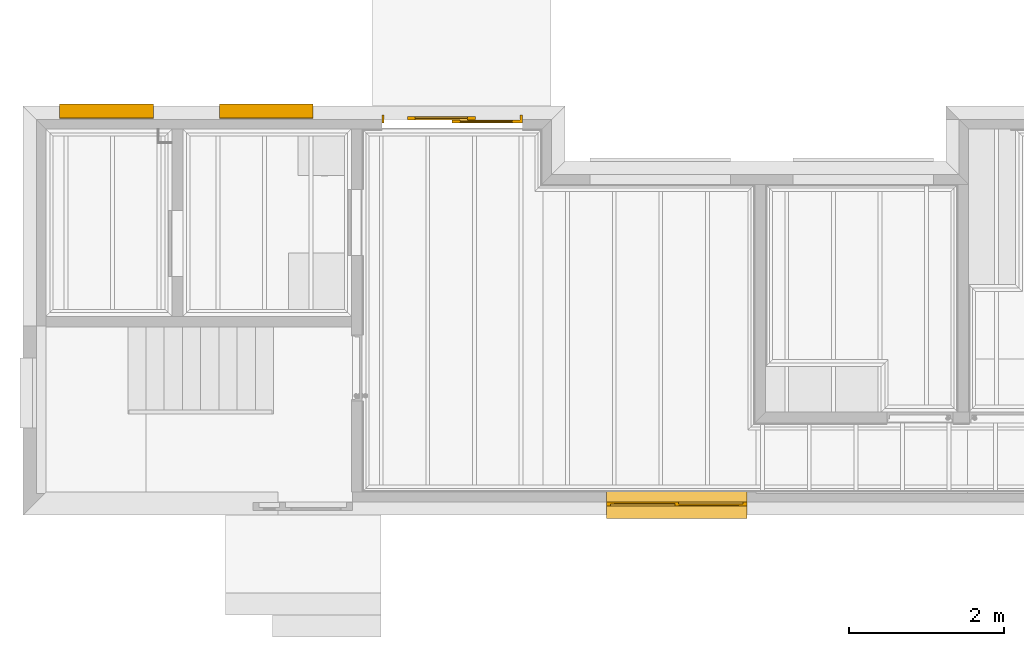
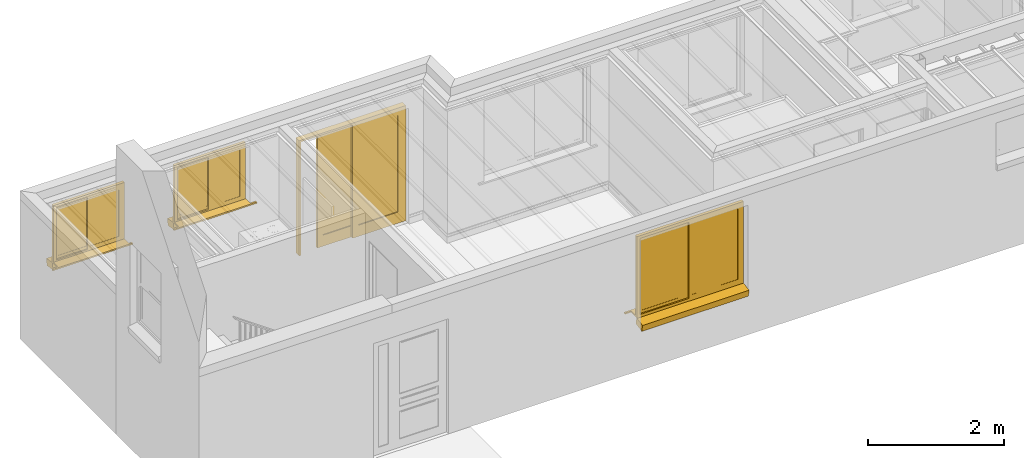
# One storey, part 7 of 15: 3 windows, 1 door.
"""IFC2X3 building model written with IfcOpenShell, lengths in millimetres."""

from ifc_helpers import new_model, entity, si_unit, converted_unit, money_unit, direction, frame, origin_with_axes, place, context, subcontext, project, spatial, faceted_brep, source, transform, mapped, material, material_list, type_object, element, save


model = new_model("IFC2X3")

# Units and contexts
model_context = context("Model", 3, precision=1e-05, world=origin_with_axes(), true_north=direction((0.0, 1.0)))
body_context = subcontext(model_context, "Body", "Model", "MODEL_VIEW")
ifc_project = project(units=[si_unit("LENGTHUNIT", "METRE", prefix="MILLI"), si_unit("AREAUNIT", "SQUARE_METRE"), si_unit("VOLUMEUNIT", "CUBIC_METRE"), converted_unit("PLANEANGLEUNIT", "DEGREE", entity("IfcPlaneAngleMeasure", 0.0174532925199), si_unit("PLANEANGLEUNIT", "RADIAN"), dimensions=[0, 0, 0, 0, 0, 0, 0]), si_unit("SOLIDANGLEUNIT", "STERADIAN"), money_unit("AUD"), si_unit("TIMEUNIT", "SECOND"), si_unit("MASSUNIT", "GRAM"), si_unit("THERMODYNAMICTEMPERATUREUNIT", "DEGREE_CELSIUS"), si_unit("LUMINOUSINTENSITYUNIT", "LUMEN")], contexts=[model_context])

# Site, building, storey
site_placement = place(None, origin_with_axes())
site = spatial("IfcSite", under=ifc_project, at=site_placement, Name="Lot 1. East Hills", CompositionType="ELEMENT")
building_placement = place(site_placement, origin_with_axes())
building = spatial("IfcBuilding", under=site, at=building_placement, Name="Proposed Units 7 & 8", CompositionType="ELEMENT")
storey_placement = place(building_placement, frame((0.0, 0.0, 3202.0), z_axis=(0.0, 0.0, 1.0), x_axis=(1.0, 0.0, 0.0)))
storey = spatial("IfcBuildingStorey", under=building, at=storey_placement, Name="Ground", CompositionType="ELEMENT", Elevation=3202.0)

# Windows
ifc_material_1 = material(Name="Empty Fill")
ifc_material_2 = material(Name="air space")
ifc_material_list_1 = material_list([ifc_material_1, ifc_material_2, ifc_material_1, ifc_material_1, ifc_material_1, ifc_material_1, ifc_material_1, ifc_material_1, ifc_material_1, ifc_material_1])
window_style = type_object("IfcWindowStyle", Name="W2 Horizontal Slide 11", ConstructionType="NOTDEFINED", OperationType="DOUBLE_PANEL_VERTICAL", ParameterTakesPrecedence=False, Sizeable=False)
shared_shape_1 = source(origin_with_axes(), body_context, "Body", "Brep", [
    faceted_brep([(-605.0, -16.6666666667, 0.0), (605.0, -16.6666666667, 0.0), (605.0, 160.83778132, -31.2988233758), (-605.0, 160.83778132, -31.2988233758), (-605.0, -37.5044479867, -118.176930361), (605.0, -37.5044479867, -118.176930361), (605.0, 140.0, -149.475753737), (-605.0, 140.0, -149.475753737)], [[[0, 1, 2, 3]], [[4, 5, 1, 0]], [[1, 5, 6, 2]], [[3, 2, 6, 7]], [[0, 3, 7, 4]], [[7, 6, 5, 4]]]),
    faceted_brep([(605.0, -50.0, 0.0), (605.0, -50.0, 25.0), (605.0, -174.999998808, 25.0), (605.0, -174.999998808, 0.0), (-605.0, -50.0, 0.0), (-605.0, -50.0, 25.0), (-605.0, -174.999998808, 25.0), (-705.0, -174.999998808, 25.0), (-705.0, -204.999998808, 25.0), (705.0, -204.999998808, 25.0), (705.0, -174.999998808, 25.0), (705.0, -174.999998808, 0.0), (705.0, -204.999998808, 0.0), (-705.0, -204.999998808, 0.0), (-705.0, -174.999998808, 0.0), (-605.0, -174.999998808, 0.0)], [[[0, 1, 2, 3]], [[4, 5, 1, 0]], [[1, 5, 6, 7, 8, 9, 10, 2]], [[3, 2, 10, 11]], [[0, 3, 11, 12, 13, 14, 15, 4]], [[15, 6, 5, 4]], [[14, 7, 6, 15]], [[13, 8, 7, 14]], [[12, 9, 8, 13]], [[11, 10, 9, 12]]]),
    faceted_brep([(-555.0, 0.0, 50.0), (-555.0, 0.0, 988.0), (-555.0, -50.0, 988.0), (-555.0, -50.0, 50.0), (-605.0, 0.0, 50.0), (-605.0, 0.0, 988.0), (-605.0, -50.0, 988.0), (-605.0, -50.0, 50.0)], [[[0, 1, 2, 3]], [[0, 4, 5, 1]], [[1, 5, 6, 2]], [[3, 2, 6, 7]], [[4, 0, 3, 7]], [[5, 4, 7, 6]]]),
    faceted_brep([(605.0, 0.0, 50.0), (605.0, 0.0, 988.0), (605.0, -50.0, 988.0), (605.0, -50.0, 50.0), (555.0, 0.0, 50.0), (555.0, 0.0, 988.0), (555.0, -50.0, 988.0), (555.0, -50.0, 50.0)], [[[0, 1, 2, 3]], [[0, 4, 5, 1]], [[1, 5, 6, 2]], [[3, 2, 6, 7]], [[4, 0, 3, 7]], [[5, 4, 7, 6]]]),
    faceted_brep([(-605.0, 0.0, 0.0), (605.0, 0.0, 0.0), (605.0, -50.0, 0.0), (-605.0, -50.0, 0.0), (-605.0, 0.0, 50.0), (-555.0, 0.0, 50.0), (555.0, 0.0, 50.0), (605.0, 0.0, 50.0), (605.0, -50.0, 50.0), (555.0, -50.0, 50.0), (-555.0, -50.0, 50.0), (-605.0, -50.0, 50.0)], [[[0, 1, 2, 3]], [[0, 4, 5, 6, 7, 1]], [[1, 7, 8, 2]], [[3, 2, 8, 9, 10, 11]], [[4, 0, 3, 11]], [[5, 4, 11, 10]], [[6, 5, 10, 9]], [[7, 6, 9, 8]]]),
    faceted_brep([(-605.0, 0.0, 988.0), (-555.0, 0.0, 988.0), (-555.0, -50.0, 988.0), (-605.0, -50.0, 988.0), (-605.0, 0.0, 1038.0), (605.0, 0.0, 1038.0), (605.0, 0.0, 988.0), (555.0, 0.0, 988.0), (555.0, -50.0, 988.0), (605.0, -50.0, 988.0), (605.0, -50.0, 1038.0), (-605.0, -50.0, 1038.0)], [[[0, 1, 2, 3]], [[0, 4, 5, 6, 7, 1]], [[1, 7, 8, 2]], [[3, 2, 8, 9, 10, 11]], [[4, 0, 3, 11]], [[5, 4, 11, 10]], [[6, 5, 10, 9]], [[7, 6, 9, 8]]]),
    faceted_brep([(-505.0, 0.0, 100.0), (-505.0, 0.0, 938.0), (-505.0, -25.0, 938.0), (-505.0, -25.0, 100.0), (-555.0, 0.0, 100.0), (-555.0, 0.0, 938.0), (-555.0, -25.0, 938.0), (-555.0, -25.0, 100.0)], [[[0, 1, 2, 3]], [[0, 4, 5, 1]], [[1, 5, 6, 2]], [[3, 2, 6, 7]], [[4, 0, 3, 7]], [[5, 4, 7, 6]]]),
    faceted_brep([(25.0, 0.0, 100.0), (25.0, 0.0, 938.0), (25.0, -25.0, 938.0), (25.0, -25.0, 100.0), (-25.0, 0.0, 100.0), (-25.0, 0.0, 938.0), (-25.0, -25.0, 938.0), (-25.0, -25.0, 100.0)], [[[0, 1, 2, 3]], [[0, 4, 5, 1]], [[1, 5, 6, 2]], [[3, 2, 6, 7]], [[4, 0, 3, 7]], [[5, 4, 7, 6]]]),
    faceted_brep([(25.0, 0.0, 50.0), (25.0, 0.0, 100.0), (25.0, -25.0, 100.0), (25.0, -25.0, 50.0), (-555.0, 0.0, 50.0), (-555.0, 0.0, 100.0), (-505.0, 0.0, 100.0), (-25.0, 0.0, 100.0), (-25.0, -25.0, 100.0), (-505.0, -25.0, 100.0), (-555.0, -25.0, 100.0), (-555.0, -25.0, 50.0)], [[[0, 1, 2, 3]], [[0, 4, 5, 6, 7, 1]], [[1, 7, 8, 2]], [[3, 2, 8, 9, 10, 11]], [[4, 0, 3, 11]], [[5, 4, 11, 10]], [[6, 5, 10, 9]], [[7, 6, 9, 8]]]),
    faceted_brep([(-555.0, 0.0, 988.0), (-555.0, 0.0, 938.0), (-555.0, -25.0, 938.0), (-555.0, -25.0, 988.0), (25.0, 0.0, 988.0), (25.0, 0.0, 938.0), (-25.0, 0.0, 938.0), (-505.0, 0.0, 938.0), (-505.0, -25.0, 938.0), (-25.0, -25.0, 938.0), (25.0, -25.0, 938.0), (25.0, -25.0, 988.0)], [[[0, 1, 2, 3]], [[0, 4, 5, 6, 7, 1]], [[1, 7, 8, 2]], [[3, 2, 8, 9, 10, 11]], [[4, 0, 3, 11]], [[5, 4, 11, 10]], [[6, 5, 10, 9]], [[7, 6, 9, 8]]]),
    faceted_brep([(-505.0, -2.5, 100.0), (-25.0, -2.5, 100.0), (-25.0, -22.5, 100.0), (-505.0, -22.5, 100.0), (-505.0, -2.5, 938.0), (-25.0, -2.5, 938.0), (-25.0, -22.5, 938.0), (-505.0, -22.5, 938.0)], [[[0, 1, 2, 3]], [[0, 4, 5, 1]], [[1, 5, 6, 2]], [[3, 2, 6, 7]], [[4, 0, 3, 7]], [[5, 4, 7, 6]]]),
    faceted_brep([(25.0, -25.0, 100.0), (25.0, -25.0, 938.0), (25.0, -50.0, 938.0), (25.0, -50.0, 100.0), (-25.0, -25.0, 100.0), (-25.0, -25.0, 938.0), (-25.0, -50.0, 938.0), (-25.0, -50.0, 100.0)], [[[0, 1, 2, 3]], [[0, 4, 5, 1]], [[1, 5, 6, 2]], [[3, 2, 6, 7]], [[4, 0, 3, 7]], [[5, 4, 7, 6]]]),
    faceted_brep([(555.0, -25.0, 100.0), (555.0, -25.0, 938.0), (555.0, -50.0, 938.0), (555.0, -50.0, 100.0), (505.0, -25.0, 100.0), (505.0, -25.0, 938.0), (505.0, -50.0, 938.0), (505.0, -50.0, 100.0)], [[[0, 1, 2, 3]], [[0, 4, 5, 1]], [[1, 5, 6, 2]], [[3, 2, 6, 7]], [[4, 0, 3, 7]], [[5, 4, 7, 6]]]),
    faceted_brep([(555.0, -25.0, 50.0), (555.0, -25.0, 100.0), (555.0, -50.0, 100.0), (555.0, -50.0, 50.0), (-25.0, -25.0, 50.0), (-25.0, -25.0, 100.0), (25.0, -25.0, 100.0), (505.0, -25.0, 100.0), (505.0, -50.0, 100.0), (25.0, -50.0, 100.0), (-25.0, -50.0, 100.0), (-25.0, -50.0, 50.0)], [[[0, 1, 2, 3]], [[0, 4, 5, 6, 7, 1]], [[1, 7, 8, 2]], [[3, 2, 8, 9, 10, 11]], [[4, 0, 3, 11]], [[5, 4, 11, 10]], [[6, 5, 10, 9]], [[7, 6, 9, 8]]]),
    faceted_brep([(-25.0, -25.0, 988.0), (-25.0, -25.0, 938.0), (-25.0, -50.0, 938.0), (-25.0, -50.0, 988.0), (555.0, -25.0, 988.0), (555.0, -25.0, 938.0), (505.0, -25.0, 938.0), (25.0, -25.0, 938.0), (25.0, -50.0, 938.0), (505.0, -50.0, 938.0), (555.0, -50.0, 938.0), (555.0, -50.0, 988.0)], [[[0, 1, 2, 3]], [[0, 4, 5, 6, 7, 1]], [[1, 7, 8, 2]], [[3, 2, 8, 9, 10, 11]], [[4, 0, 3, 11]], [[5, 4, 11, 10]], [[6, 5, 10, 9]], [[7, 6, 9, 8]]]),
    faceted_brep([(25.0, -27.5, 100.0), (505.0, -27.5, 100.0), (505.0, -47.5, 100.0), (25.0, -47.5, 100.0), (25.0, -27.5, 938.0), (505.0, -27.5, 938.0), (505.0, -47.5, 938.0), (25.0, -47.5, 938.0)], [[[0, 1, 2, 3]], [[0, 4, 5, 1]], [[1, 5, 6, 2]], [[3, 2, 6, 7]], [[4, 0, 3, 7]], [[5, 4, 7, 6]]]),
])
window_1_placement = place(storey_placement, frame((2525.0, 5263.0, 1286.0), z_axis=(0.0, 0.0, 1.0), x_axis=(1.0, 0.0, 0.0)))
element("IfcWindow", 1, at=window_1_placement, inside=storey, type_object=window_style, material=ifc_material_list_1, Name="W001 W2 Horizontal Slide 11 1.21 x 1.038 Window", OverallHeight=1038.0, OverallWidth=1210.0, context=body_context, shape_type="MappedRepresentation", body=[
    mapped(shared_shape_1, transform((605.0, -120.0, 0.0))),
])
shared_shape_2 = source(origin_with_axes(), body_context, "Body", "Brep", [
    faceted_brep([(-605.0, -16.6666666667, 0.0), (605.0, -16.6666666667, 0.0), (605.0, 160.83778132, -31.2988233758), (-605.0, 160.83778132, -31.2988233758), (-605.0, -37.5044479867, -118.176930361), (605.0, -37.5044479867, -118.176930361), (605.0, 140.0, -149.475753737), (-605.0, 140.0, -149.475753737)], [[[0, 1, 2, 3]], [[4, 5, 1, 0]], [[1, 5, 6, 2]], [[3, 2, 6, 7]], [[0, 3, 7, 4]], [[7, 6, 5, 4]]]),
    faceted_brep([(605.0, -50.0, 0.0), (605.0, -50.0, 25.0), (605.0, -174.999998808, 25.0), (605.0, -174.999998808, 0.0), (-605.0, -50.0, 0.0), (-605.0, -50.0, 25.0), (-605.0, -174.999998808, 25.0), (-705.0, -174.999998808, 25.0), (-705.0, -204.999998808, 25.0), (655.0, -204.999998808, 25.0), (655.0, -174.999998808, 25.0), (655.0, -174.999998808, 0.0), (655.0, -204.999998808, 0.0), (-705.0, -204.999998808, 0.0), (-705.0, -174.999998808, 0.0), (-605.0, -174.999998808, 0.0)], [[[0, 1, 2, 3]], [[4, 5, 1, 0]], [[1, 5, 6, 7, 8, 9, 10, 2]], [[3, 2, 10, 11]], [[0, 3, 11, 12, 13, 14, 15, 4]], [[15, 6, 5, 4]], [[14, 7, 6, 15]], [[13, 8, 7, 14]], [[12, 9, 8, 13]], [[11, 10, 9, 12]]]),
    faceted_brep([(-555.0, 0.0, 50.0), (-555.0, 0.0, 988.0), (-555.0, -50.0, 988.0), (-555.0, -50.0, 50.0), (-605.0, 0.0, 50.0), (-605.0, 0.0, 988.0), (-605.0, -50.0, 988.0), (-605.0, -50.0, 50.0)], [[[0, 1, 2, 3]], [[0, 4, 5, 1]], [[1, 5, 6, 2]], [[3, 2, 6, 7]], [[4, 0, 3, 7]], [[5, 4, 7, 6]]]),
    faceted_brep([(605.0, 0.0, 50.0), (605.0, 0.0, 988.0), (605.0, -50.0, 988.0), (605.0, -50.0, 50.0), (555.0, 0.0, 50.0), (555.0, 0.0, 988.0), (555.0, -50.0, 988.0), (555.0, -50.0, 50.0)], [[[0, 1, 2, 3]], [[0, 4, 5, 1]], [[1, 5, 6, 2]], [[3, 2, 6, 7]], [[4, 0, 3, 7]], [[5, 4, 7, 6]]]),
    faceted_brep([(-605.0, 0.0, 0.0), (605.0, 0.0, 0.0), (605.0, -50.0, 0.0), (-605.0, -50.0, 0.0), (-605.0, 0.0, 50.0), (-555.0, 0.0, 50.0), (555.0, 0.0, 50.0), (605.0, 0.0, 50.0), (605.0, -50.0, 50.0), (555.0, -50.0, 50.0), (-555.0, -50.0, 50.0), (-605.0, -50.0, 50.0)], [[[0, 1, 2, 3]], [[0, 4, 5, 6, 7, 1]], [[1, 7, 8, 2]], [[3, 2, 8, 9, 10, 11]], [[4, 0, 3, 11]], [[5, 4, 11, 10]], [[6, 5, 10, 9]], [[7, 6, 9, 8]]]),
    faceted_brep([(-605.0, 0.0, 988.0), (-555.0, 0.0, 988.0), (-555.0, -50.0, 988.0), (-605.0, -50.0, 988.0), (-605.0, 0.0, 1038.0), (605.0, 0.0, 1038.0), (605.0, 0.0, 988.0), (555.0, 0.0, 988.0), (555.0, -50.0, 988.0), (605.0, -50.0, 988.0), (605.0, -50.0, 1038.0), (-605.0, -50.0, 1038.0)], [[[0, 1, 2, 3]], [[0, 4, 5, 6, 7, 1]], [[1, 7, 8, 2]], [[3, 2, 8, 9, 10, 11]], [[4, 0, 3, 11]], [[5, 4, 11, 10]], [[6, 5, 10, 9]], [[7, 6, 9, 8]]]),
    faceted_brep([(-505.0, 0.0, 100.0), (-505.0, 0.0, 938.0), (-505.0, -25.0, 938.0), (-505.0, -25.0, 100.0), (-555.0, 0.0, 100.0), (-555.0, 0.0, 938.0), (-555.0, -25.0, 938.0), (-555.0, -25.0, 100.0)], [[[0, 1, 2, 3]], [[0, 4, 5, 1]], [[1, 5, 6, 2]], [[3, 2, 6, 7]], [[4, 0, 3, 7]], [[5, 4, 7, 6]]]),
    faceted_brep([(25.0, 0.0, 100.0), (25.0, 0.0, 938.0), (25.0, -25.0, 938.0), (25.0, -25.0, 100.0), (-25.0, 0.0, 100.0), (-25.0, 0.0, 938.0), (-25.0, -25.0, 938.0), (-25.0, -25.0, 100.0)], [[[0, 1, 2, 3]], [[0, 4, 5, 1]], [[1, 5, 6, 2]], [[3, 2, 6, 7]], [[4, 0, 3, 7]], [[5, 4, 7, 6]]]),
    faceted_brep([(25.0, 0.0, 50.0), (25.0, 0.0, 100.0), (25.0, -25.0, 100.0), (25.0, -25.0, 50.0), (-555.0, 0.0, 50.0), (-555.0, 0.0, 100.0), (-505.0, 0.0, 100.0), (-25.0, 0.0, 100.0), (-25.0, -25.0, 100.0), (-505.0, -25.0, 100.0), (-555.0, -25.0, 100.0), (-555.0, -25.0, 50.0)], [[[0, 1, 2, 3]], [[0, 4, 5, 6, 7, 1]], [[1, 7, 8, 2]], [[3, 2, 8, 9, 10, 11]], [[4, 0, 3, 11]], [[5, 4, 11, 10]], [[6, 5, 10, 9]], [[7, 6, 9, 8]]]),
    faceted_brep([(-555.0, 0.0, 988.0), (-555.0, 0.0, 938.0), (-555.0, -25.0, 938.0), (-555.0, -25.0, 988.0), (25.0, 0.0, 988.0), (25.0, 0.0, 938.0), (-25.0, 0.0, 938.0), (-505.0, 0.0, 938.0), (-505.0, -25.0, 938.0), (-25.0, -25.0, 938.0), (25.0, -25.0, 938.0), (25.0, -25.0, 988.0)], [[[0, 1, 2, 3]], [[0, 4, 5, 6, 7, 1]], [[1, 7, 8, 2]], [[3, 2, 8, 9, 10, 11]], [[4, 0, 3, 11]], [[5, 4, 11, 10]], [[6, 5, 10, 9]], [[7, 6, 9, 8]]]),
    faceted_brep([(-505.0, -2.5, 100.0), (-25.0, -2.5, 100.0), (-25.0, -22.5, 100.0), (-505.0, -22.5, 100.0), (-505.0, -2.5, 938.0), (-25.0, -2.5, 938.0), (-25.0, -22.5, 938.0), (-505.0, -22.5, 938.0)], [[[0, 1, 2, 3]], [[0, 4, 5, 1]], [[1, 5, 6, 2]], [[3, 2, 6, 7]], [[4, 0, 3, 7]], [[5, 4, 7, 6]]]),
    faceted_brep([(25.0, -25.0, 100.0), (25.0, -25.0, 938.0), (25.0, -50.0, 938.0), (25.0, -50.0, 100.0), (-25.0, -25.0, 100.0), (-25.0, -25.0, 938.0), (-25.0, -50.0, 938.0), (-25.0, -50.0, 100.0)], [[[0, 1, 2, 3]], [[0, 4, 5, 1]], [[1, 5, 6, 2]], [[3, 2, 6, 7]], [[4, 0, 3, 7]], [[5, 4, 7, 6]]]),
    faceted_brep([(555.0, -25.0, 100.0), (555.0, -25.0, 938.0), (555.0, -50.0, 938.0), (555.0, -50.0, 100.0), (505.0, -25.0, 100.0), (505.0, -25.0, 938.0), (505.0, -50.0, 938.0), (505.0, -50.0, 100.0)], [[[0, 1, 2, 3]], [[0, 4, 5, 1]], [[1, 5, 6, 2]], [[3, 2, 6, 7]], [[4, 0, 3, 7]], [[5, 4, 7, 6]]]),
    faceted_brep([(555.0, -25.0, 50.0), (555.0, -25.0, 100.0), (555.0, -50.0, 100.0), (555.0, -50.0, 50.0), (-25.0, -25.0, 50.0), (-25.0, -25.0, 100.0), (25.0, -25.0, 100.0), (505.0, -25.0, 100.0), (505.0, -50.0, 100.0), (25.0, -50.0, 100.0), (-25.0, -50.0, 100.0), (-25.0, -50.0, 50.0)], [[[0, 1, 2, 3]], [[0, 4, 5, 6, 7, 1]], [[1, 7, 8, 2]], [[3, 2, 8, 9, 10, 11]], [[4, 0, 3, 11]], [[5, 4, 11, 10]], [[6, 5, 10, 9]], [[7, 6, 9, 8]]]),
    faceted_brep([(-25.0, -25.0, 988.0), (-25.0, -25.0, 938.0), (-25.0, -50.0, 938.0), (-25.0, -50.0, 988.0), (555.0, -25.0, 988.0), (555.0, -25.0, 938.0), (505.0, -25.0, 938.0), (25.0, -25.0, 938.0), (25.0, -50.0, 938.0), (505.0, -50.0, 938.0), (555.0, -50.0, 938.0), (555.0, -50.0, 988.0)], [[[0, 1, 2, 3]], [[0, 4, 5, 6, 7, 1]], [[1, 7, 8, 2]], [[3, 2, 8, 9, 10, 11]], [[4, 0, 3, 11]], [[5, 4, 11, 10]], [[6, 5, 10, 9]], [[7, 6, 9, 8]]]),
    faceted_brep([(25.0, -27.5, 100.0), (505.0, -27.5, 100.0), (505.0, -47.5, 100.0), (25.0, -47.5, 100.0), (25.0, -27.5, 938.0), (505.0, -27.5, 938.0), (505.0, -47.5, 938.0), (25.0, -47.5, 938.0)], [[[0, 1, 2, 3]], [[0, 4, 5, 1]], [[1, 5, 6, 2]], [[3, 2, 6, 7]], [[4, 0, 3, 7]], [[5, 4, 7, 6]]]),
])
window_2_placement = place(storey_placement, frame((469.964301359, 5263.0, 1286.0), z_axis=(0.0, 0.0, 1.0), x_axis=(1.0, 0.0, 0.0)))
element("IfcWindow", 2, at=window_2_placement, inside=storey, type_object=window_style, material=ifc_material_list_1, Name="W001 W2 Horizontal Slide 11 1.21 x 1.038 Window", OverallHeight=1038.0, OverallWidth=1210.0, context=body_context, shape_type="MappedRepresentation", body=[
    mapped(shared_shape_2, transform((605.0, -120.0, 0.0))),
])

# Door
ifc_material_list_2 = material_list([ifc_material_1, ifc_material_2, ifc_material_1, ifc_material_1, ifc_material_1, ifc_material_1, ifc_material_1, ifc_material_1, ifc_material_1])
door_style = type_object("IfcDoorStyle", Name="D2 Sliding 12", ConstructionType="NOTDEFINED", OperationType="SLIDING_TO_LEFT", ParameterTakesPrecedence=False, Sizeable=False)
shared_shape_3 = source(origin_with_axes(), body_context, "Body", "Brep", [
    faceted_brep([(875.0, 0.0, 0.0), (875.0, -100.0, 0.0), (875.0, -100.0, 2037.0), (875.0, 0.0, 2037.0), (905.0, 0.0, 0.0), (905.0, -100.0, 0.0), (905.0, -100.0, 2037.0), (905.0, 0.0, 2037.0)], [[[0, 1, 2, 3]], [[4, 5, 1, 0]], [[1, 5, 6, 2]], [[3, 2, 6, 7]], [[0, 3, 7, 4]], [[7, 6, 5, 4]]]),
    faceted_brep([(-905.0, 0.0, 0.0), (-905.0, -100.0, 0.0), (-905.0, -100.0, 2037.0), (-905.0, 0.0, 2037.0), (-875.0, 0.0, 0.0), (-875.0, -100.0, 0.0), (-875.0, -100.0, 2037.0), (-875.0, 0.0, 2037.0)], [[[0, 1, 2, 3]], [[4, 5, 1, 0]], [[1, 5, 6, 2]], [[3, 2, 6, 7]], [[0, 3, 7, 4]], [[7, 6, 5, 4]]]),
    faceted_brep([(905.0, 0.0, 2067.0), (905.0, -100.0, 2067.0), (905.0, -100.0, 2037.0), (905.0, 0.0, 2037.0), (-905.0, 0.0, 2067.0), (-905.0, -100.0, 2067.0), (-905.0, -100.0, 2037.0), (-875.0, -100.0, 2037.0), (875.0, -100.0, 2037.0), (875.0, 0.0, 2037.0), (-875.0, 0.0, 2037.0), (-905.0, 0.0, 2037.0)], [[[0, 1, 2, 3]], [[4, 5, 1, 0]], [[1, 5, 6, 7, 8, 2]], [[3, 2, 8, 9]], [[0, 3, 9, 10, 11, 4]], [[11, 6, 5, 4]], [[10, 7, 6, 11]], [[9, 8, 7, 10]]]),
    faceted_brep([(-875.0, 0.0, 200.0), (-775.0, 0.0, 200.0), (-775.0, -40.0, 200.0), (-875.0, -40.0, 200.0), (-875.0, 0.0, 1937.0), (-775.0, 0.0, 1937.0), (-775.0, -40.0, 1937.0), (-875.0, -40.0, 1937.0)], [[[0, 1, 2, 3]], [[0, 4, 5, 1]], [[1, 5, 6, 2]], [[3, 2, 6, 7]], [[4, 0, 3, 7]], [[5, 4, 7, 6]]]),
    faceted_brep([(0.0, 0.0, 200.0), (0.0, 0.0, 1937.0), (0.0, -40.0, 1937.0), (0.0, -40.0, 200.0), (-100.0, 0.0, 200.0), (-100.0, 0.0, 1937.0), (-100.0, -40.0, 1937.0), (-100.0, -40.0, 200.0)], [[[0, 1, 2, 3]], [[0, 4, 5, 1]], [[1, 5, 6, 2]], [[3, 2, 6, 7]], [[4, 0, 3, 7]], [[5, 4, 7, 6]]]),
    faceted_brep([(-875.0, 0.0, 0.0), (0.0, 0.0, 0.0), (0.0, -40.0, 0.0), (-875.0, -40.0, 0.0), (-875.0, 0.0, 200.0), (-775.0, 0.0, 200.0), (-100.0, 0.0, 200.0), (0.0, 0.0, 200.0), (0.0, -40.0, 200.0), (-100.0, -40.0, 200.0), (-775.0, -40.0, 200.0), (-875.0, -40.0, 200.0)], [[[0, 1, 2, 3]], [[0, 4, 5, 6, 7, 1]], [[1, 7, 8, 2]], [[3, 2, 8, 9, 10, 11]], [[4, 0, 3, 11]], [[5, 4, 11, 10]], [[6, 5, 10, 9]], [[7, 6, 9, 8]]]),
    faceted_brep([(-875.0, 0.0, 2037.0), (-875.0, 0.0, 1937.0), (-875.0, -40.0, 1937.0), (-875.0, -40.0, 2037.0), (0.0, 0.0, 2037.0), (0.0, 0.0, 1937.0), (-100.0, 0.0, 1937.0), (-775.0, 0.0, 1937.0), (-775.0, -40.0, 1937.0), (-100.0, -40.0, 1937.0), (0.0, -40.0, 1937.0), (0.0, -40.0, 2037.0)], [[[0, 1, 2, 3]], [[0, 4, 5, 6, 7, 1]], [[1, 7, 8, 2]], [[3, 2, 8, 9, 10, 11]], [[4, 0, 3, 11]], [[5, 4, 11, 10]], [[6, 5, 10, 9]], [[7, 6, 9, 8]]]),
    faceted_brep([(-775.0, -14.0, 200.0), (-100.0, -14.0, 200.0), (-100.0, -26.0, 200.0), (-775.0, -26.0, 200.0), (-775.0, -14.0, 1937.0), (-100.0, -14.0, 1937.0), (-100.0, -26.0, 1937.0), (-775.0, -26.0, 1937.0)], [[[0, 1, 2, 3]], [[0, 4, 5, 1]], [[1, 5, 6, 2]], [[3, 2, 6, 7]], [[4, 0, 3, 7]], [[5, 4, 7, 6]]]),
    faceted_brep([(-300.0, -40.0, 200.0), (-200.0, -40.0, 200.0), (-200.0, -80.0, 200.0), (-300.0, -80.0, 200.0), (-300.0, -40.0, 1937.0), (-200.0, -40.0, 1937.0), (-200.0, -80.0, 1937.0), (-300.0, -80.0, 1937.0)], [[[0, 1, 2, 3]], [[0, 4, 5, 1]], [[1, 5, 6, 2]], [[3, 2, 6, 7]], [[4, 0, 3, 7]], [[5, 4, 7, 6]]]),
    faceted_brep([(575.0, -40.0, 200.0), (575.0, -40.0, 1937.0), (575.0, -80.0, 1937.0), (575.0, -80.0, 200.0), (475.0, -40.0, 200.0), (475.0, -40.0, 1937.0), (475.0, -80.0, 1937.0), (475.0, -80.0, 200.0)], [[[0, 1, 2, 3]], [[0, 4, 5, 1]], [[1, 5, 6, 2]], [[3, 2, 6, 7]], [[4, 0, 3, 7]], [[5, 4, 7, 6]]]),
    faceted_brep([(-300.0, -40.0, 0.0), (575.0, -40.0, 0.0), (575.0, -80.0, 0.0), (-300.0, -80.0, 0.0), (-300.0, -40.0, 200.0), (-200.0, -40.0, 200.0), (475.0, -40.0, 200.0), (575.0, -40.0, 200.0), (575.0, -80.0, 200.0), (475.0, -80.0, 200.0), (-200.0, -80.0, 200.0), (-300.0, -80.0, 200.0)], [[[0, 1, 2, 3]], [[0, 4, 5, 6, 7, 1]], [[1, 7, 8, 2]], [[3, 2, 8, 9, 10, 11]], [[4, 0, 3, 11]], [[5, 4, 11, 10]], [[6, 5, 10, 9]], [[7, 6, 9, 8]]]),
    faceted_brep([(-300.0, -40.0, 2037.0), (-300.0, -40.0, 1937.0), (-300.0, -80.0, 1937.0), (-300.0, -80.0, 2037.0), (575.0, -40.0, 2037.0), (575.0, -40.0, 1937.0), (475.0, -40.0, 1937.0), (-200.0, -40.0, 1937.0), (-200.0, -80.0, 1937.0), (475.0, -80.0, 1937.0), (575.0, -80.0, 1937.0), (575.0, -80.0, 2037.0)], [[[0, 1, 2, 3]], [[0, 4, 5, 6, 7, 1]], [[1, 7, 8, 2]], [[3, 2, 8, 9, 10, 11]], [[4, 0, 3, 11]], [[5, 4, 11, 10]], [[6, 5, 10, 9]], [[7, 6, 9, 8]]]),
    faceted_brep([(-200.0, -54.0, 200.0), (475.0, -54.0, 200.0), (475.0, -66.0, 200.0), (-200.0, -66.0, 200.0), (-200.0, -54.0, 1937.0), (475.0, -54.0, 1937.0), (475.0, -66.0, 1937.0), (-200.0, -66.0, 1937.0)], [[[0, 1, 2, 3]], [[0, 4, 5, 1]], [[1, 5, 6, 2]], [[3, 2, 6, 7]], [[4, 0, 3, 7]], [[5, 4, 7, 6]]]),
])
door_placement = place(storey_placement, frame((6427.49999933, 5263.0, 0.0), z_axis=(0.0, 0.0, 1.0), x_axis=(-1.0, 0.0, 0.0)))
element("IfcDoor", 3, at=door_placement, inside=storey, type_object=door_style, material=ifc_material_list_2, Name="D003 D2 Sliding 12 1.81 x 2.067 x 1 Door", OverallHeight=2067.0, OverallWidth=1810.0, context=body_context, shape_type="MappedRepresentation", body=[
    mapped(shared_shape_3, transform((905.0, 214.999998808, 0.0))),
])

# Window
shared_shape_4 = source(origin_with_axes(), body_context, "Body", "Brep", [
    faceted_brep([(-905.0, -16.6666666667, 0.0), (905.0, -16.6666666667, 0.0), (905.0, 160.83778132, -31.2988233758), (-905.0, 160.83778132, -31.2988233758), (-905.0, -37.5044479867, -118.176930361), (905.0, -37.5044479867, -118.176930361), (905.0, 140.0, -149.475753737), (-905.0, 140.0, -149.475753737)], [[[0, 1, 2, 3]], [[4, 5, 1, 0]], [[1, 5, 6, 2]], [[3, 2, 6, 7]], [[0, 3, 7, 4]], [[7, 6, 5, 4]]]),
    faceted_brep([(905.0, -50.0, 0.0), (905.0, -50.0, 25.0), (905.0, -174.999998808, 25.0), (905.0, -174.999998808, 0.0), (-905.0, -50.0, 0.0), (-905.0, -50.0, 25.0), (-905.0, -174.999998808, 25.0), (-1005.0, -174.999998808, 25.0), (-1005.0, -204.999998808, 25.0), (1005.0, -204.999998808, 25.0), (1005.0, -174.999998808, 25.0), (1005.0, -174.999998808, 0.0), (1005.0, -204.999998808, 0.0), (-1005.0, -204.999998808, 0.0), (-1005.0, -174.999998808, 0.0), (-905.0, -174.999998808, 0.0)], [[[0, 1, 2, 3]], [[4, 5, 1, 0]], [[1, 5, 6, 7, 8, 9, 10, 2]], [[3, 2, 10, 11]], [[0, 3, 11, 12, 13, 14, 15, 4]], [[15, 6, 5, 4]], [[14, 7, 6, 15]], [[13, 8, 7, 14]], [[12, 9, 8, 13]], [[11, 10, 9, 12]]]),
    faceted_brep([(-855.0, 0.0, 50.0), (-855.0, 0.0, 1417.0), (-855.0, -50.0, 1417.0), (-855.0, -50.0, 50.0), (-905.0, 0.0, 50.0), (-905.0, 0.0, 1417.0), (-905.0, -50.0, 1417.0), (-905.0, -50.0, 50.0)], [[[0, 1, 2, 3]], [[0, 4, 5, 1]], [[1, 5, 6, 2]], [[3, 2, 6, 7]], [[4, 0, 3, 7]], [[5, 4, 7, 6]]]),
    faceted_brep([(905.0, 0.0, 50.0), (905.0, 0.0, 1417.0), (905.0, -50.0, 1417.0), (905.0, -50.0, 50.0), (855.0, 0.0, 50.0), (855.0, 0.0, 1417.0), (855.0, -50.0, 1417.0), (855.0, -50.0, 50.0)], [[[0, 1, 2, 3]], [[0, 4, 5, 1]], [[1, 5, 6, 2]], [[3, 2, 6, 7]], [[4, 0, 3, 7]], [[5, 4, 7, 6]]]),
    faceted_brep([(-905.0, 0.0, 0.0), (905.0, 0.0, 0.0), (905.0, -50.0, 0.0), (-905.0, -50.0, 0.0), (-905.0, 0.0, 50.0), (-855.0, 0.0, 50.0), (855.0, 0.0, 50.0), (905.0, 0.0, 50.0), (905.0, -50.0, 50.0), (855.0, -50.0, 50.0), (-855.0, -50.0, 50.0), (-905.0, -50.0, 50.0)], [[[0, 1, 2, 3]], [[0, 4, 5, 6, 7, 1]], [[1, 7, 8, 2]], [[3, 2, 8, 9, 10, 11]], [[4, 0, 3, 11]], [[5, 4, 11, 10]], [[6, 5, 10, 9]], [[7, 6, 9, 8]]]),
    faceted_brep([(-905.0, 0.0, 1417.0), (-855.0, 0.0, 1417.0), (-855.0, -50.0, 1417.0), (-905.0, -50.0, 1417.0), (-905.0, 0.0, 1467.0), (905.0, 0.0, 1467.0), (905.0, 0.0, 1417.0), (855.0, 0.0, 1417.0), (855.0, -50.0, 1417.0), (905.0, -50.0, 1417.0), (905.0, -50.0, 1467.0), (-905.0, -50.0, 1467.0)], [[[0, 1, 2, 3]], [[0, 4, 5, 6, 7, 1]], [[1, 7, 8, 2]], [[3, 2, 8, 9, 10, 11]], [[4, 0, 3, 11]], [[5, 4, 11, 10]], [[6, 5, 10, 9]], [[7, 6, 9, 8]]]),
    faceted_brep([(-805.0, 0.0, 100.0), (-805.0, 0.0, 1367.0), (-805.0, -25.0, 1367.0), (-805.0, -25.0, 100.0), (-855.0, 0.0, 100.0), (-855.0, 0.0, 1367.0), (-855.0, -25.0, 1367.0), (-855.0, -25.0, 100.0)], [[[0, 1, 2, 3]], [[0, 4, 5, 1]], [[1, 5, 6, 2]], [[3, 2, 6, 7]], [[4, 0, 3, 7]], [[5, 4, 7, 6]]]),
    faceted_brep([(25.0, 0.0, 100.0), (25.0, 0.0, 1367.0), (25.0, -25.0, 1367.0), (25.0, -25.0, 100.0), (-25.0, 0.0, 100.0), (-25.0, 0.0, 1367.0), (-25.0, -25.0, 1367.0), (-25.0, -25.0, 100.0)], [[[0, 1, 2, 3]], [[0, 4, 5, 1]], [[1, 5, 6, 2]], [[3, 2, 6, 7]], [[4, 0, 3, 7]], [[5, 4, 7, 6]]]),
    faceted_brep([(25.0, 0.0, 50.0), (25.0, 0.0, 100.0), (25.0, -25.0, 100.0), (25.0, -25.0, 50.0), (-855.0, 0.0, 50.0), (-855.0, 0.0, 100.0), (-805.0, 0.0, 100.0), (-25.0, 0.0, 100.0), (-25.0, -25.0, 100.0), (-805.0, -25.0, 100.0), (-855.0, -25.0, 100.0), (-855.0, -25.0, 50.0)], [[[0, 1, 2, 3]], [[0, 4, 5, 6, 7, 1]], [[1, 7, 8, 2]], [[3, 2, 8, 9, 10, 11]], [[4, 0, 3, 11]], [[5, 4, 11, 10]], [[6, 5, 10, 9]], [[7, 6, 9, 8]]]),
    faceted_brep([(-855.0, 0.0, 1417.0), (-855.0, 0.0, 1367.0), (-855.0, -25.0, 1367.0), (-855.0, -25.0, 1417.0), (25.0, 0.0, 1417.0), (25.0, 0.0, 1367.0), (-25.0, 0.0, 1367.0), (-805.0, 0.0, 1367.0), (-805.0, -25.0, 1367.0), (-25.0, -25.0, 1367.0), (25.0, -25.0, 1367.0), (25.0, -25.0, 1417.0)], [[[0, 1, 2, 3]], [[0, 4, 5, 6, 7, 1]], [[1, 7, 8, 2]], [[3, 2, 8, 9, 10, 11]], [[4, 0, 3, 11]], [[5, 4, 11, 10]], [[6, 5, 10, 9]], [[7, 6, 9, 8]]]),
    faceted_brep([(-805.0, -2.5, 100.0), (-25.0, -2.5, 100.0), (-25.0, -22.5, 100.0), (-805.0, -22.5, 100.0), (-805.0, -2.5, 1367.0), (-25.0, -2.5, 1367.0), (-25.0, -22.5, 1367.0), (-805.0, -22.5, 1367.0)], [[[0, 1, 2, 3]], [[0, 4, 5, 1]], [[1, 5, 6, 2]], [[3, 2, 6, 7]], [[4, 0, 3, 7]], [[5, 4, 7, 6]]]),
    faceted_brep([(25.0, -25.0, 100.0), (25.0, -25.0, 1367.0), (25.0, -50.0, 1367.0), (25.0, -50.0, 100.0), (-25.0, -25.0, 100.0), (-25.0, -25.0, 1367.0), (-25.0, -50.0, 1367.0), (-25.0, -50.0, 100.0)], [[[0, 1, 2, 3]], [[0, 4, 5, 1]], [[1, 5, 6, 2]], [[3, 2, 6, 7]], [[4, 0, 3, 7]], [[5, 4, 7, 6]]]),
    faceted_brep([(855.0, -25.0, 100.0), (855.0, -25.0, 1367.0), (855.0, -50.0, 1367.0), (855.0, -50.0, 100.0), (805.0, -25.0, 100.0), (805.0, -25.0, 1367.0), (805.0, -50.0, 1367.0), (805.0, -50.0, 100.0)], [[[0, 1, 2, 3]], [[0, 4, 5, 1]], [[1, 5, 6, 2]], [[3, 2, 6, 7]], [[4, 0, 3, 7]], [[5, 4, 7, 6]]]),
    faceted_brep([(855.0, -25.0, 50.0), (855.0, -25.0, 100.0), (855.0, -50.0, 100.0), (855.0, -50.0, 50.0), (-25.0, -25.0, 50.0), (-25.0, -25.0, 100.0), (25.0, -25.0, 100.0), (805.0, -25.0, 100.0), (805.0, -50.0, 100.0), (25.0, -50.0, 100.0), (-25.0, -50.0, 100.0), (-25.0, -50.0, 50.0)], [[[0, 1, 2, 3]], [[0, 4, 5, 6, 7, 1]], [[1, 7, 8, 2]], [[3, 2, 8, 9, 10, 11]], [[4, 0, 3, 11]], [[5, 4, 11, 10]], [[6, 5, 10, 9]], [[7, 6, 9, 8]]]),
    faceted_brep([(-25.0, -25.0, 1417.0), (-25.0, -25.0, 1367.0), (-25.0, -50.0, 1367.0), (-25.0, -50.0, 1417.0), (855.0, -25.0, 1417.0), (855.0, -25.0, 1367.0), (805.0, -25.0, 1367.0), (25.0, -25.0, 1367.0), (25.0, -50.0, 1367.0), (805.0, -50.0, 1367.0), (855.0, -50.0, 1367.0), (855.0, -50.0, 1417.0)], [[[0, 1, 2, 3]], [[0, 4, 5, 6, 7, 1]], [[1, 7, 8, 2]], [[3, 2, 8, 9, 10, 11]], [[4, 0, 3, 11]], [[5, 4, 11, 10]], [[6, 5, 10, 9]], [[7, 6, 9, 8]]]),
    faceted_brep([(25.0, -27.5, 100.0), (805.0, -27.5, 100.0), (805.0, -47.5, 100.0), (25.0, -47.5, 100.0), (25.0, -27.5, 1367.0), (805.0, -27.5, 1367.0), (805.0, -47.5, 1367.0), (25.0, -47.5, 1367.0)], [[[0, 1, 2, 3]], [[0, 4, 5, 1]], [[1, 5, 6, 2]], [[3, 2, 6, 7]], [[4, 0, 3, 7]], [[5, 4, 7, 6]]]),
])
window_3_placement = place(storey_placement, frame((9319.94696814, -2.0, 857.0), z_axis=(0.0, 0.0, 1.0), x_axis=(-1.0, 0.0, 0.0)))
element("IfcWindow", 4, at=window_3_placement, inside=storey, type_object=window_style, material=ifc_material_list_1, Name="W008 W2 Horizontal Slide 11 1.81 x 1.467 Window", OverallHeight=1467.0, OverallWidth=1810.0, context=body_context, shape_type="MappedRepresentation", body=[
    mapped(shared_shape_4, transform((905.0, -120.0, 0.0))),
])

save(model, "model.ifc")
